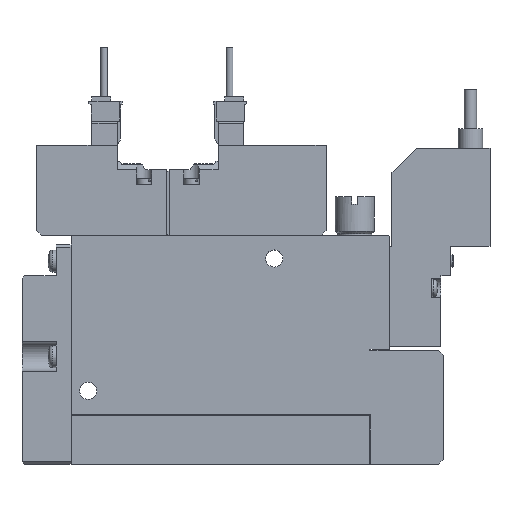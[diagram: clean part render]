
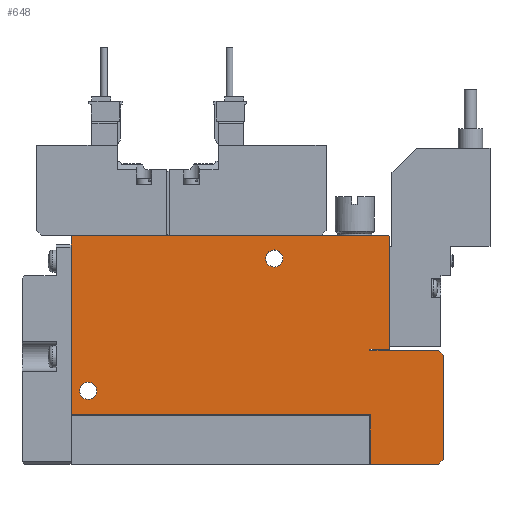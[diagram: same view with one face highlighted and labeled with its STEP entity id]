
A CAD part, top view. The second image highlights one B-rep face of the part: STEP entity #648.
In plain terms, the highlighted planar face has unit normal (0, 0, 1).
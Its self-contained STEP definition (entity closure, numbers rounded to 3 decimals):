
#648=ADVANCED_FACE('',(#1426,#1427,#1428),#1429,.F.);
#1426=FACE_OUTER_BOUND('',#2303,.T.);
#1427=FACE_BOUND('',#2304,.T.);
#1428=FACE_BOUND('',#2305,.T.);
#1429=PLANE('',#2306);
#2303=EDGE_LOOP('',(#5089,#5090,#5091,#5092,#5093,#5094,#5095,#5096,#5097,#5098,#5099,#5100,#5101,#5102));
#2304=EDGE_LOOP('',(#5103));
#2305=EDGE_LOOP('',(#5104));
#2306=AXIS2_PLACEMENT_3D('',#5105,#5106,#5107);
#5089=ORIENTED_EDGE('',*,*,#6536,.T.);
#5090=ORIENTED_EDGE('',*,*,#6537,.F.);
#5091=ORIENTED_EDGE('',*,*,#6538,.F.);
#5092=ORIENTED_EDGE('',*,*,#6539,.T.);
#5093=ORIENTED_EDGE('',*,*,#6540,.T.);
#5094=ORIENTED_EDGE('',*,*,#6497,.T.);
#5095=ORIENTED_EDGE('',*,*,#6541,.T.);
#5096=ORIENTED_EDGE('',*,*,#6517,.T.);
#5097=ORIENTED_EDGE('',*,*,#6503,.T.);
#5098=ORIENTED_EDGE('',*,*,#6542,.T.);
#5099=ORIENTED_EDGE('',*,*,#6507,.T.);
#5100=ORIENTED_EDGE('',*,*,#6543,.T.);
#5101=ORIENTED_EDGE('',*,*,#6544,.T.);
#5102=ORIENTED_EDGE('',*,*,#6545,.T.);
#5103=ORIENTED_EDGE('',*,*,#6546,.F.);
#5104=ORIENTED_EDGE('',*,*,#6547,.F.);
#5105=CARTESIAN_POINT('',(0.0,0.0,5.0));
#5106=DIRECTION('',(0.0,0.0,-1.0));
#5107=DIRECTION('',(0.0,-1.0,0.0));
#6497=EDGE_CURVE('',#8063,#8061,#8064,.T.);
#6503=EDGE_CURVE('',#8074,#8072,#8075,.T.);
#6507=EDGE_CURVE('',#8082,#8080,#8083,.T.);
#6517=EDGE_CURVE('',#8100,#8074,#8101,.T.);
#6536=EDGE_CURVE('',#8132,#8133,#8134,.T.);
#6537=EDGE_CURVE('',#8135,#8133,#8136,.T.);
#6538=EDGE_CURVE('',#8137,#8135,#8138,.T.);
#6539=EDGE_CURVE('',#8137,#8139,#8140,.T.);
#6540=EDGE_CURVE('',#8139,#8063,#8141,.T.);
#6541=EDGE_CURVE('',#8061,#8100,#8142,.T.);
#6542=EDGE_CURVE('',#8072,#8082,#8143,.T.);
#6543=EDGE_CURVE('',#8080,#8144,#8145,.T.);
#6544=EDGE_CURVE('',#8144,#8146,#8147,.T.);
#6545=EDGE_CURVE('',#8146,#8132,#8148,.T.);
#6546=EDGE_CURVE('',#8149,#8149,#8150,.T.);
#6547=EDGE_CURVE('',#8151,#8151,#8152,.T.);
#8061=VERTEX_POINT('',#10608);
#8063=VERTEX_POINT('',#10611);
#8064=LINE('',#10612,#10613);
#8072=VERTEX_POINT('',#10624);
#8074=VERTEX_POINT('',#10627);
#8075=LINE('',#10628,#10629);
#8080=VERTEX_POINT('',#10636);
#8082=VERTEX_POINT('',#10639);
#8083=LINE('',#10640,#10641);
#8100=VERTEX_POINT('',#10667);
#8101=LINE('',#10668,#10669);
#8132=VERTEX_POINT('',#10715);
#8133=VERTEX_POINT('',#10716);
#8134=LINE('',#10717,#10718);
#8135=VERTEX_POINT('',#10719);
#8136=LINE('',#10720,#10721);
#8137=VERTEX_POINT('',#10722);
#8138=LINE('',#10723,#10724);
#8139=VERTEX_POINT('',#10725);
#8140=LINE('',#10726,#10727);
#8141=LINE('',#10728,#10729);
#8142=LINE('',#10730,#10731);
#8143=LINE('',#10732,#10733);
#8144=VERTEX_POINT('',#10734);
#8145=LINE('',#10735,#10736);
#8146=VERTEX_POINT('',#10737);
#8147=LINE('',#10738,#10739);
#8148=LINE('',#10740,#10741);
#8149=VERTEX_POINT('',#10742);
#8150=CIRCLE('',#10743,1.75);
#8151=VERTEX_POINT('',#10744);
#8152=CIRCLE('',#10745,1.75);
#10608=CARTESIAN_POINT('',(76.0,22.25,5.0));
#10611=CARTESIAN_POINT('',(76.0,1.0,5.0));
#10612=CARTESIAN_POINT('',(76.0,1.0,5.0));
#10613=VECTOR('',#12212,1.0);
#10624=CARTESIAN_POINT('',(61.0,23.5,5.0));
#10627=CARTESIAN_POINT('',(61.0,23.25,5.0));
#10628=CARTESIAN_POINT('',(61.0,23.25,5.0));
#10629=VECTOR('',#12220,1.0);
#10636=CARTESIAN_POINT('',(65.0,46.4,5.0));
#10639=CARTESIAN_POINT('',(65.0,23.5,5.0));
#10640=CARTESIAN_POINT('',(65.0,23.5,5.0));
#10641=VECTOR('',#12224,1.0);
#10667=CARTESIAN_POINT('',(75.0,23.25,5.0));
#10668=CARTESIAN_POINT('',(75.0,23.25,5.0));
#10669=VECTOR('',#12234,1.0);
#10715=CARTESIAN_POINT('',(0.0,46.4,5.0));
#10716=CARTESIAN_POINT('',(0.0,10.1,5.0));
#10717=CARTESIAN_POINT('',(0.0,46.4,5.0));
#10718=VECTOR('',#12259,1.0);
#10719=CARTESIAN_POINT('',(61.1,10.1,5.0));
#10720=CARTESIAN_POINT('',(61.1,10.1,5.0));
#10721=VECTOR('',#12260,1.0);
#10722=CARTESIAN_POINT('',(61.1,0.0,5.0));
#10723=CARTESIAN_POINT('',(61.1,0.0,5.0));
#10724=VECTOR('',#12261,1.0);
#10725=CARTESIAN_POINT('',(75.0,0.0,5.0));
#10726=CARTESIAN_POINT('',(0.0,0.0,5.0));
#10727=VECTOR('',#12262,1.0);
#10728=CARTESIAN_POINT('',(75.0,0.0,5.0));
#10729=VECTOR('',#12263,1.0);
#10730=CARTESIAN_POINT('',(76.0,22.25,5.0));
#10731=VECTOR('',#12264,1.0);
#10732=CARTESIAN_POINT('',(61.0,23.5,5.0));
#10733=VECTOR('',#12265,1.0);
#10734=CARTESIAN_POINT('',(64.8,46.6,5.0));
#10735=CARTESIAN_POINT('',(65.0,46.4,5.0));
#10736=VECTOR('',#12266,1.0);
#10737=CARTESIAN_POINT('',(0.2,46.6,5.0));
#10738=CARTESIAN_POINT('',(64.8,46.6,5.0));
#10739=VECTOR('',#12267,1.0);
#10740=CARTESIAN_POINT('',(0.2,46.6,5.0));
#10741=VECTOR('',#12268,1.0);
#10742=CARTESIAN_POINT('',(5.25,15.0,5.0));
#10743=AXIS2_PLACEMENT_3D('',#12269,#12270,#12271);
#10744=CARTESIAN_POINT('',(43.25,42.0,5.0));
#10745=AXIS2_PLACEMENT_3D('',#12272,#12273,#12274);
#12212=DIRECTION('',(0.0,1.0,0.0));
#12220=DIRECTION('',(0.0,1.0,0.0));
#12224=DIRECTION('',(0.0,1.0,0.0));
#12234=DIRECTION('',(-1.0,0.0,0.0));
#12259=DIRECTION('',(0.0,-1.0,0.0));
#12260=DIRECTION('',(-1.0,0.0,0.0));
#12261=DIRECTION('',(0.0,1.0,0.0));
#12262=DIRECTION('',(1.0,0.0,0.0));
#12263=DIRECTION('',(0.707,0.707,0.0));
#12264=DIRECTION('',(-0.707,0.707,0.0));
#12265=DIRECTION('',(1.0,0.,0.0));
#12266=DIRECTION('',(-0.707,0.707,0.0));
#12267=DIRECTION('',(-1.0,0.0,0.0));
#12268=DIRECTION('',(-0.707,-0.707,0.0));
#12269=CARTESIAN_POINT('',(3.5,15.0,5.0));
#12270=DIRECTION('',(0.0,0.0,1.0));
#12271=DIRECTION('',(1.0,0.0,0.0));
#12272=CARTESIAN_POINT('',(41.5,42.0,5.0));
#12273=DIRECTION('',(0.0,0.0,1.0));
#12274=DIRECTION('',(1.0,0.0,0.0));
